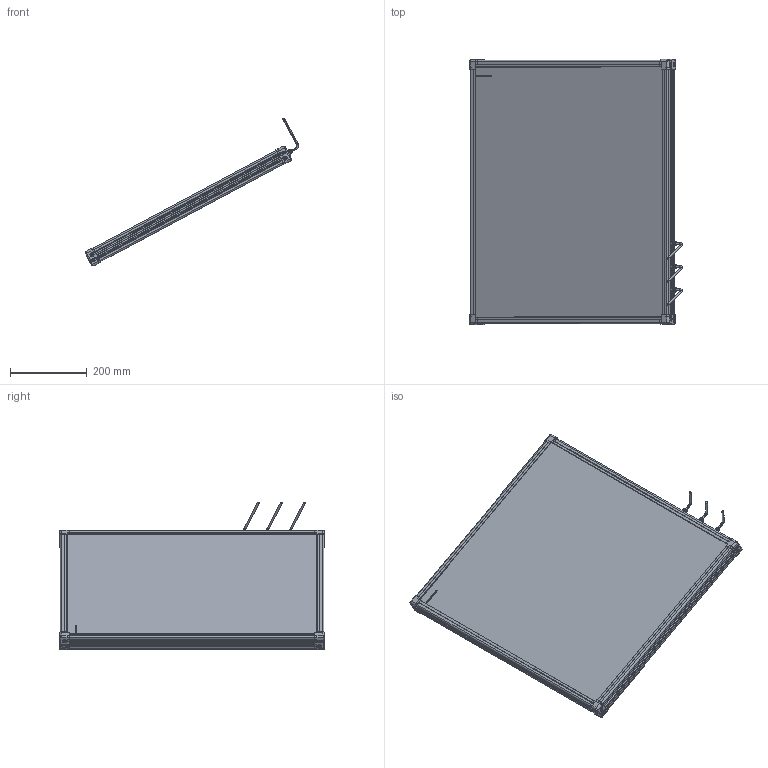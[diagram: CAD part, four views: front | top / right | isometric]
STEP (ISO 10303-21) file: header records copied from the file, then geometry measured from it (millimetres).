
FILE_DESCRIPTION (( 'STEP AP214' ), '1' );
FILE_NAME ('EFFI-BL-550-650-ZZZ 3xM12.STEP', '2021-06-18T13:23:45', ( '' ), ( '' ), 'SwSTEP 2.0', 'SolidWorks 2021', '' );
FILE_SCHEMA (( 'AUTOMOTIVE_DESIGN' ));
Length unit declared in the file: millimetre
Products named in the file (9): profile Y_PERCE; petite joue + vis; EFFI-BL-550-650-ZZZ 3xM12; cordon_Avec cable; Pièce13^EFFI-BL-XXX-YYY-ZZZ -3M12; 000629; petite joue; profile X_PERCE
Assembly tree (15 placements, depth 3):
  EFFI-BL-550-650-ZZZ 3xM12
    profile X_PERCE  x2
    profile Y_PERCE
    profile Y_PERCE
    Pièce13^EFFI-BL-XXX-YYY-ZZZ -3M12
    petite joue + vis  x4
      petite joue
      000629
    cordon_Avec cable  x3
Bounding box: 554.4 x 689 x 384.76 mm (x, y, z)
Volume: 14142454.3 mm3; surface area: 1189614.9 mm2
Topology: 17 solids, 35 shells, 3755 faces, 10039 edges, 6637 vertices
Faces by surface type: plane 2470, cylinder 624, bspline 609, torus 30, cone 22
Entity records: 51051 total; most frequent: CARTESIAN_POINT 21838, ORIENTED_EDGE 6208, DIRECTION 4721, EDGE_CURVE 3108, LINE 2305, VECTOR 2305, VERTEX_POINT 2064, EDGE_LOOP 1260
